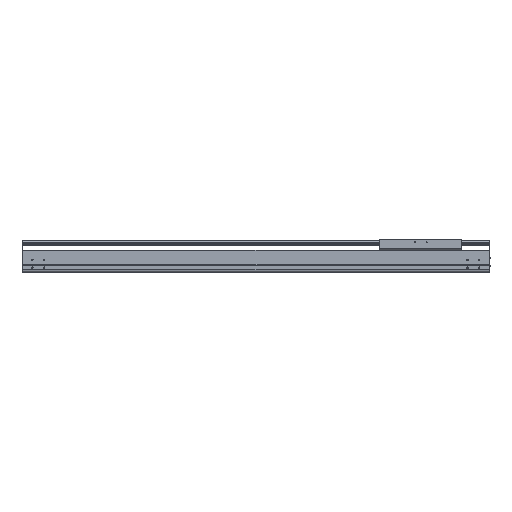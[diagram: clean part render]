
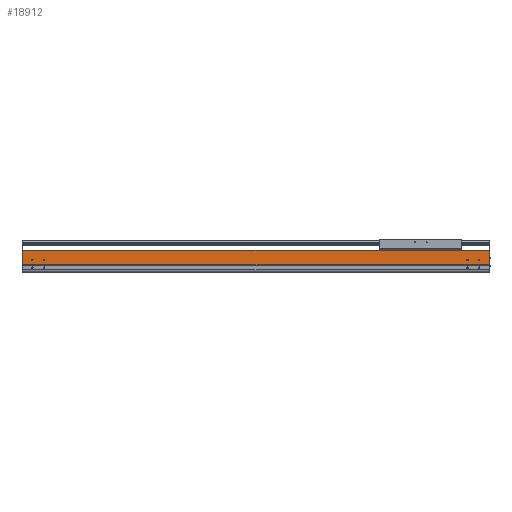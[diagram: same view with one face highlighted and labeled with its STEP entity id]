
A CAD part, top view. The second image highlights one B-rep face of the part: STEP entity #18912.
In plain terms, the highlighted planar face has unit normal (0, 0, 1).
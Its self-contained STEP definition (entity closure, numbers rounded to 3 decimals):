
#1915=DIRECTION('',(1.,0.,0.));
#1916=VECTOR('',#1915,2.);
#1917=CARTESIAN_POINT('',(0.,34.65,107.));
#1918=LINE('',#1917,#1916);
#1923=CARTESIAN_POINT('',(-42.,54.,107.));
#1924=DIRECTION('',(0.,0.,-1.));
#1925=DIRECTION('',(1.,0.,0.));
#1926=AXIS2_PLACEMENT_3D('',#1923,#1924,#1925);
#1928=CARTESIAN_POINT('',(-42.,54.,107.));
#1929=DIRECTION('',(0.,0.,-1.));
#1930=DIRECTION('',(-1.,0.,0.));
#1931=AXIS2_PLACEMENT_3D('',#1928,#1929,#1930);
#1933=CARTESIAN_POINT('',(-92.,54.,107.));
#1934=DIRECTION('',(0.,0.,-1.));
#1935=DIRECTION('',(1.,0.,0.));
#1936=AXIS2_PLACEMENT_3D('',#1933,#1934,#1935);
#1938=CARTESIAN_POINT('',(-92.,54.,107.));
#1939=DIRECTION('',(0.,0.,-1.));
#1940=DIRECTION('',(-1.,0.,0.));
#1941=AXIS2_PLACEMENT_3D('',#1938,#1939,#1940);
#1943=CARTESIAN_POINT('',(-1944.,54.,107.));
#1944=DIRECTION('',(0.,0.,-1.));
#1945=DIRECTION('',(1.,0.,0.));
#1946=AXIS2_PLACEMENT_3D('',#1943,#1944,#1945);
#1948=CARTESIAN_POINT('',(-1944.,54.,107.));
#1949=DIRECTION('',(0.,0.,-1.));
#1950=DIRECTION('',(-1.,0.,0.));
#1951=AXIS2_PLACEMENT_3D('',#1948,#1949,#1950);
#1953=CARTESIAN_POINT('',(-1894.,54.,107.));
#1954=DIRECTION('',(0.,0.,-1.));
#1955=DIRECTION('',(1.,0.,0.));
#1956=AXIS2_PLACEMENT_3D('',#1953,#1954,#1955);
#1958=CARTESIAN_POINT('',(-1894.,54.,107.));
#1959=DIRECTION('',(0.,0.,-1.));
#1960=DIRECTION('',(-1.,0.,0.));
#1961=AXIS2_PLACEMENT_3D('',#1958,#1959,#1960);
#1963=DIRECTION('',(0.,-1.,0.));
#1964=VECTOR('',#1963,2.55);
#1965=CARTESIAN_POINT('',(-1984.,34.65,107.));
#1966=LINE('',#1965,#1964);
#1967=DIRECTION('',(0.,-1.,0.));
#1968=VECTOR('',#1967,58.85);
#1969=CARTESIAN_POINT('',(-1986.,93.5,107.));
#1970=LINE('',#1969,#1968);
#1971=DIRECTION('',(0.,1.,0.));
#1972=VECTOR('',#1971,58.85);
#1973=CARTESIAN_POINT('',(2.,34.65,107.));
#1974=LINE('',#1973,#1972);
#1975=DIRECTION('',(0.,1.,0.));
#1976=VECTOR('',#1975,2.55);
#1977=CARTESIAN_POINT('',(0.,32.1,107.));
#1978=LINE('',#1977,#1976);
#2087=DIRECTION('',(1.,0.,0.));
#2088=VECTOR('',#2087,2.);
#2089=CARTESIAN_POINT('',(-1986.,34.65,107.));
#2090=LINE('',#2089,#2088);
#2099=DIRECTION('',(-1.,0.,0.));
#2100=VECTOR('',#2099,1988.);
#2101=CARTESIAN_POINT('',(2.,93.5,107.));
#2102=LINE('',#2101,#2100);
#11779=DIRECTION('',(1.,0.,0.));
#11780=VECTOR('',#11779,1984.);
#11781=CARTESIAN_POINT('',(-1984.,32.1,107.));
#11782=LINE('',#11781,#11780);
#12993=CARTESIAN_POINT('',(-1986.,34.65,107.));
#12994=VERTEX_POINT('',#12993);
#12995=CARTESIAN_POINT('',(-1986.,93.5,107.));
#12996=VERTEX_POINT('',#12995);
#13217=CARTESIAN_POINT('',(-1984.,32.1,107.));
#13218=VERTEX_POINT('',#13217);
#13289=CARTESIAN_POINT('',(0.,32.1,107.));
#13290=VERTEX_POINT('',#13289);
#13817=CARTESIAN_POINT('',(-39.5,54.,107.));
#13818=CARTESIAN_POINT('',(-44.5,54.,107.));
#13819=VERTEX_POINT('',#13817);
#13820=VERTEX_POINT('',#13818);
#13821=CARTESIAN_POINT('',(-89.5,54.,107.));
#13822=CARTESIAN_POINT('',(-94.5,54.,107.));
#13823=VERTEX_POINT('',#13821);
#13824=VERTEX_POINT('',#13822);
#13825=CARTESIAN_POINT('',(-1941.5,54.,107.));
#13826=CARTESIAN_POINT('',(-1946.5,54.,107.));
#13827=VERTEX_POINT('',#13825);
#13828=VERTEX_POINT('',#13826);
#13829=CARTESIAN_POINT('',(-1891.5,54.,107.));
#13830=CARTESIAN_POINT('',(-1896.5,54.,107.));
#13831=VERTEX_POINT('',#13829);
#13832=VERTEX_POINT('',#13830);
#15096=CARTESIAN_POINT('',(2.,34.65,107.));
#15097=VERTEX_POINT('',#15096);
#15098=CARTESIAN_POINT('',(2.,93.5,107.));
#15099=VERTEX_POINT('',#15098);
#15318=CARTESIAN_POINT('',(0.,34.65,107.));
#15319=VERTEX_POINT('',#15318);
#15630=CARTESIAN_POINT('',(-1984.,34.65,107.));
#15631=VERTEX_POINT('',#15630);
#18870=CARTESIAN_POINT('',(-992.,62.8,107.));
#18871=DIRECTION('',(0.,0.,1.));
#18872=DIRECTION('',(0.,-1.,0.));
#18873=AXIS2_PLACEMENT_3D('',#18870,#18871,#18872);
#18874=PLANE('',#18873);
#18875=ORIENTED_EDGE('',*,*,#16387,.F.);
#18877=ORIENTED_EDGE('',*,*,#18876,.F.);
#18878=ORIENTED_EDGE('',*,*,#17469,.F.);
#18880=ORIENTED_EDGE('',*,*,#18879,.F.);
#18881=ORIENTED_EDGE('',*,*,#18668,.F.);
#18882=ORIENTED_EDGE('',*,*,#18863,.F.);
#18883=ORIENTED_EDGE('',*,*,#16994,.F.);
#18885=ORIENTED_EDGE('',*,*,#18884,.F.);
#18886=EDGE_LOOP('',(#18875,#18877,#18878,#18880,#18881,#18882,#18883,#18885));
#18887=FACE_OUTER_BOUND('',#18886,.F.);
#18889=ORIENTED_EDGE('',*,*,#18888,.F.);
#18891=ORIENTED_EDGE('',*,*,#18890,.F.);
#18892=EDGE_LOOP('',(#18889,#18891));
#18893=FACE_BOUND('',#18892,.F.);
#18895=ORIENTED_EDGE('',*,*,#18894,.F.);
#18897=ORIENTED_EDGE('',*,*,#18896,.F.);
#18898=EDGE_LOOP('',(#18895,#18897));
#18899=FACE_BOUND('',#18898,.F.);
#18901=ORIENTED_EDGE('',*,*,#18900,.F.);
#18903=ORIENTED_EDGE('',*,*,#18902,.F.);
#18904=EDGE_LOOP('',(#18901,#18903));
#18905=FACE_BOUND('',#18904,.F.);
#18907=ORIENTED_EDGE('',*,*,#18906,.F.);
#18909=ORIENTED_EDGE('',*,*,#18908,.F.);
#18910=EDGE_LOOP('',(#18907,#18909));
#18911=FACE_BOUND('',#18910,.F.);
#18912=ADVANCED_FACE('',(#18887,#18893,#18899,#18905,#18911),#18874,.T.);
#1927=CIRCLE('',#1926,2.5);
#1932=CIRCLE('',#1931,2.5);
#1937=CIRCLE('',#1936,2.5);
#1942=CIRCLE('',#1941,2.5);
#1947=CIRCLE('',#1946,2.5);
#1952=CIRCLE('',#1951,2.5);
#1957=CIRCLE('',#1956,2.5);
#1962=CIRCLE('',#1961,2.5);
#16387=EDGE_CURVE('',#15631,#13218,#1966,.T.);
#16994=EDGE_CURVE('',#13290,#15319,#1978,.T.);
#17469=EDGE_CURVE('',#12996,#12994,#1970,.T.);
#18668=EDGE_CURVE('',#15097,#15099,#1974,.T.);
#18863=EDGE_CURVE('',#15319,#15097,#1918,.T.);
#18876=EDGE_CURVE('',#12994,#15631,#2090,.T.);
#18879=EDGE_CURVE('',#15099,#12996,#2102,.T.);
#18884=EDGE_CURVE('',#13218,#13290,#11782,.T.);
#18888=EDGE_CURVE('',#13823,#13824,#1937,.T.);
#18890=EDGE_CURVE('',#13824,#13823,#1942,.T.);
#18894=EDGE_CURVE('',#13827,#13828,#1947,.T.);
#18896=EDGE_CURVE('',#13828,#13827,#1952,.T.);
#18900=EDGE_CURVE('',#13831,#13832,#1957,.T.);
#18902=EDGE_CURVE('',#13832,#13831,#1962,.T.);
#18906=EDGE_CURVE('',#13819,#13820,#1927,.T.);
#18908=EDGE_CURVE('',#13820,#13819,#1932,.T.);
